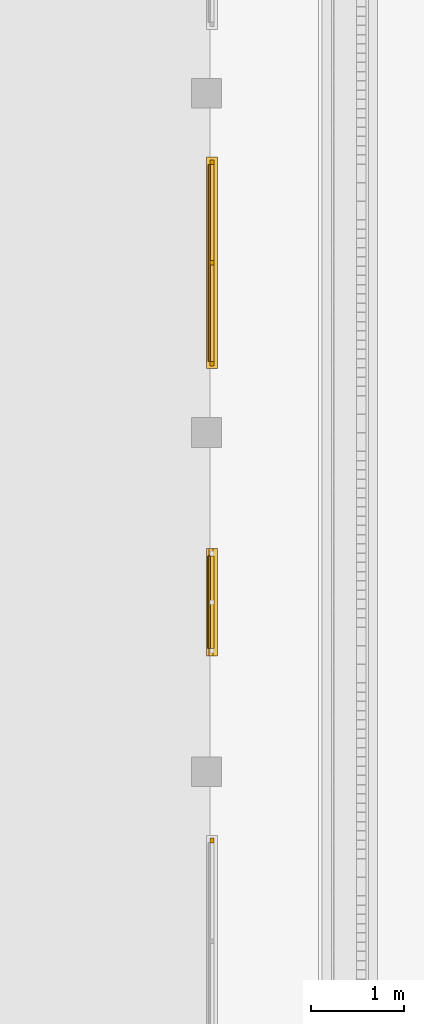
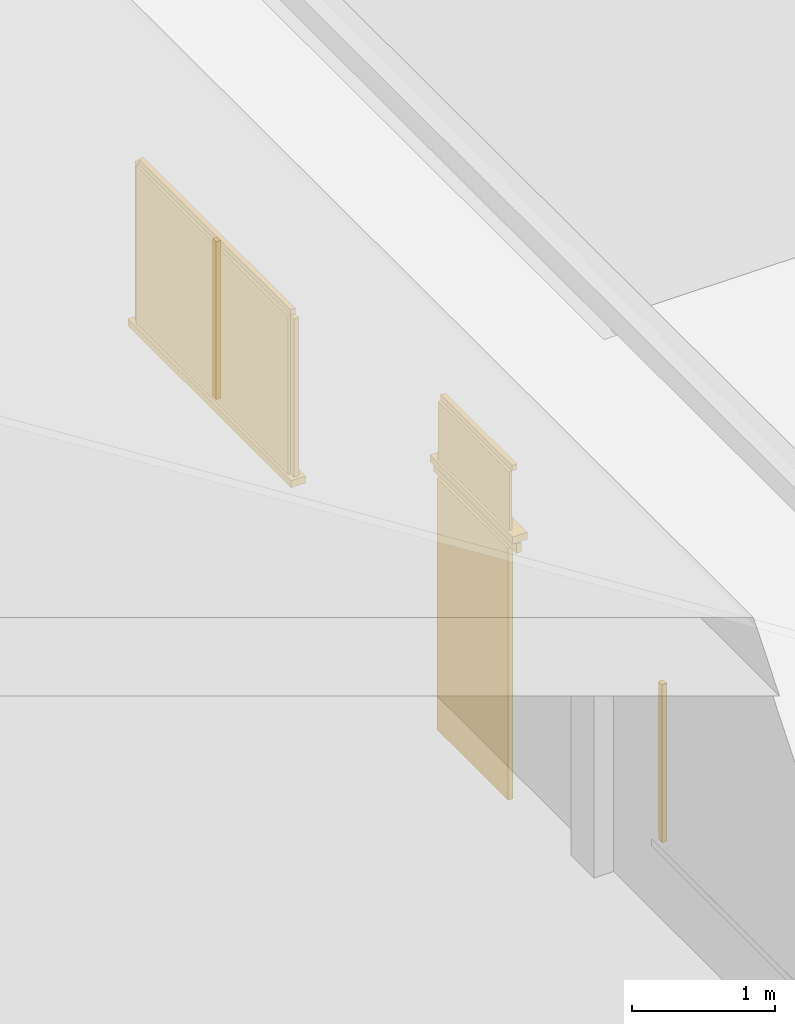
# One storey, part 52 of 151: 10 windows, 2 doors.
"""IFC2X3 building model written with IfcOpenShell, lengths in metres."""

from ifc_helpers import new_model, si_unit, origin, origin_with_axes, place, context, subcontext, project, spatial, faceted_brep, element, save


model = new_model("IFC2X3")

# Units and contexts
model_context = context("Model", 3, precision=1e-05, world=origin_with_axes())
body_context = subcontext(model_context, "Body", "Model", "MODEL_VIEW")
ifc_project = project(units=[si_unit("LENGTHUNIT", "METRE"), si_unit("AREAUNIT", "SQUARE_METRE"), si_unit("VOLUMEUNIT", "CUBIC_METRE"), si_unit("PLANEANGLEUNIT", "RADIAN")], contexts=[model_context])

# Site, building, storey
site_placement = place(None, origin_with_axes())
site = spatial("IfcSite", under=ifc_project, at=site_placement, Name="Predio Los Mangos - Morales, San Martín", CompositionType="ELEMENT")
building_placement = place(site_placement, origin())
building = spatial("IfcBuilding", under=site, at=building_placement, Name="Hogar de Refugio Temporal", CompositionType="ELEMENT")
storey_placement = place(building_placement, origin())
storey = spatial("IfcBuildingStorey", under=building, at=storey_placement, Name="NIVEL 1 (NPT +0.00)", CompositionType="ELEMENT", Elevation=0.0)

# Window
window_1_placement = place(storey_placement, origin())
element("IfcWindow", 1, at=window_1_placement, inside=storey, Name="E-05_v3_m", ObjectType="Ventana", context=body_context, shape_type="Brep", body=[
    faceted_brep([(59.64, 71.7809, 1.05), (59.64, 71.8309, 1.05), (59.68, 71.8309, 1.05), (59.68, 71.7809, 1.05), (59.64, 71.7809, 2.4), (59.68, 71.7809, 2.4), (59.68, 71.8309, 2.4), (59.64, 71.8309, 2.4)], [[[0, 1, 2, 3]], [[4, 5, 6, 7]], [[0, 3, 5, 4]], [[3, 2, 6, 5]], [[2, 1, 7, 6]], [[1, 0, 4, 7]]]),
])

# Doors
door_1_placement = place(storey_placement, origin())
element("IfcDoor", 2, at=door_1_placement, inside=storey, Name="E-05_p4", ObjectType="Puerta", context=body_context, shape_type="Brep", body=[
    faceted_brep([(59.61, 73.8812, 0.15), (59.61, 74.8812, 0.15), (59.65, 74.8812, 0.15), (59.65, 73.8812, 0.15), (59.61, 73.8812, 2.3), (59.65, 73.8812, 2.3), (59.65, 74.8812, 2.3), (59.61, 74.8812, 2.3)], [[[0, 1, 2, 3]], [[4, 5, 6, 7]], [[0, 3, 5, 4]], [[3, 2, 6, 5]], [[2, 1, 7, 6]], [[1, 0, 4, 7]]]),
])
door_2_placement = place(storey_placement, origin())
element("IfcDoor", 3, at=door_2_placement, inside=storey, Name="E-05_p4_marco", ObjectType="Puerta", context=body_context, shape_type="Brep", body=[
    faceted_brep([(59.63, 73.8012, 2.3), (59.63, 74.9613, 2.3), (59.67, 74.9613, 2.3), (59.67, 73.8012, 2.3), (59.63, 73.8012, 2.38), (59.67, 73.8012, 2.38), (59.67, 74.9613, 2.38), (59.63, 74.9613, 2.38)], [[[0, 1, 2, 3]], [[4, 5, 6, 7]], [[0, 3, 5, 4]], [[3, 2, 6, 5]], [[2, 1, 7, 6]], [[1, 0, 4, 7]]]),
])

# Windows
window_2_placement = place(storey_placement, origin())
element("IfcWindow", 4, at=window_2_placement, inside=storey, Name="E-05_vt4_vid", ObjectType="Ventana", context=body_context, shape_type="Brep", body=[
    faceted_brep([(59.62, 73.8812, 2.45), (59.62, 74.8812, 2.45), (59.64, 74.8812, 2.45), (59.64, 73.8812, 2.45), (59.62, 73.8812, 2.95), (59.64, 73.8812, 2.95), (59.64, 74.8812, 2.95), (59.62, 74.8812, 2.95)], [[[0, 1, 2, 3]], [[4, 5, 6, 7]], [[0, 3, 5, 4]], [[3, 2, 6, 5]], [[2, 1, 7, 6]], [[1, 0, 4, 7]]]),
])
window_3_placement = place(storey_placement, origin())
element("IfcWindow", 5, at=window_3_placement, inside=storey, Name="E-05_vt4_m", ObjectType="Ventana", context=body_context, shape_type="Brep", body=[
    faceted_brep([(59.64, 73.8812, 2.95), (59.64, 74.8812, 2.95), (59.68, 74.8812, 2.95), (59.68, 73.8812, 2.95), (59.64, 73.8812, 3.0), (59.68, 73.8812, 3.0), (59.68, 74.8812, 3.0), (59.64, 74.8812, 3.0)], [[[0, 1, 2, 3]], [[4, 5, 6, 7]], [[0, 3, 5, 4]], [[3, 2, 6, 5]], [[2, 1, 7, 6]], [[1, 0, 4, 7]]]),
])
window_4_placement = place(storey_placement, origin())
element("IfcWindow", 6, at=window_4_placement, inside=storey, Name="E-05_vt4_alf", ObjectType="Ventana", context=body_context, shape_type="Brep", body=[
    faceted_brep([(59.6, 73.8012, 2.39), (59.6, 74.9613, 2.39), (59.72, 74.9613, 2.39), (59.72, 73.8012, 2.39), (59.6, 73.8012, 2.45), (59.72, 73.8012, 2.45), (59.72, 74.9613, 2.45), (59.6, 74.9613, 2.45)], [[[0, 1, 2, 3]], [[4, 5, 6, 7]], [[0, 3, 5, 4]], [[3, 2, 6, 5]], [[2, 1, 7, 6]], [[1, 0, 4, 7]]]),
])
window_5_placement = place(storey_placement, origin())
element("IfcWindow", 7, at=window_5_placement, inside=storey, Name="E-05_v5_vid", ObjectType="Ventana", context=body_context, shape_type="Brep", body=[
    faceted_brep([(59.62, 76.9816, 1.05), (59.62, 79.1059, 1.05), (59.64, 79.1059, 1.05), (59.64, 76.9816, 1.05), (59.62, 76.9816, 2.4), (59.64, 76.9816, 2.4), (59.64, 79.1059, 2.4), (59.62, 79.1059, 2.4)], [[[0, 1, 2, 3]], [[4, 5, 6, 7]], [[0, 3, 5, 4]], [[3, 2, 6, 5]], [[2, 1, 7, 6]], [[1, 0, 4, 7]]]),
])
window_6_placement = place(storey_placement, origin())
element("IfcWindow", 8, at=window_6_placement, inside=storey, Name="E-05_v5_m", ObjectType="Ventana", context=body_context, shape_type="Brep", body=[
    faceted_brep([(59.64, 76.9316, 1.05), (59.64, 76.9816, 1.05), (59.68, 76.9816, 1.05), (59.68, 76.9316, 1.05), (59.64, 76.9316, 2.4), (59.68, 76.9316, 2.4), (59.68, 76.9816, 2.4), (59.64, 76.9816, 2.4)], [[[0, 1, 2, 3]], [[4, 5, 6, 7]], [[0, 3, 5, 4]], [[3, 2, 6, 5]], [[2, 1, 7, 6]], [[1, 0, 4, 7]]]),
])
window_7_placement = place(storey_placement, origin())
element("IfcWindow", 9, at=window_7_placement, inside=storey, Name="E-05_v5_m", ObjectType="Ventana", context=body_context, shape_type="Brep", body=[
    faceted_brep([(59.64, 79.1059, 1.05), (59.64, 79.1559, 1.05), (59.68, 79.1559, 1.05), (59.68, 79.1059, 1.05), (59.64, 79.1059, 2.4), (59.68, 79.1059, 2.4), (59.68, 79.1559, 2.4), (59.64, 79.1559, 2.4)], [[[0, 1, 2, 3]], [[4, 5, 6, 7]], [[0, 3, 5, 4]], [[3, 2, 6, 5]], [[2, 1, 7, 6]], [[1, 0, 4, 7]]]),
])
window_8_placement = place(storey_placement, origin())
element("IfcWindow", 10, at=window_8_placement, inside=storey, Name="E-05_v5_m", ObjectType="Ventana", context=body_context, shape_type="Brep", body=[
    faceted_brep([(59.64, 76.9816, 2.4), (59.64, 79.1059, 2.4), (59.68, 79.1059, 2.4), (59.68, 76.9816, 2.4), (59.64, 76.9816, 2.45), (59.68, 76.9816, 2.45), (59.68, 79.1059, 2.45), (59.64, 79.1059, 2.45)], [[[0, 1, 2, 3]], [[4, 5, 6, 7]], [[0, 3, 5, 4]], [[3, 2, 6, 5]], [[2, 1, 7, 6]], [[1, 0, 4, 7]]]),
])
window_9_placement = place(storey_placement, origin())
element("IfcWindow", 11, at=window_9_placement, inside=storey, Name="E-05_v5_m", ObjectType="Ventana", context=body_context, shape_type="Brep", body=[
    faceted_brep([(59.64, 78.0188, 1.05), (59.64, 78.0687, 1.05), (59.68, 78.0687, 1.05), (59.68, 78.0188, 1.05), (59.64, 78.0188, 2.4), (59.68, 78.0188, 2.4), (59.68, 78.0687, 2.4), (59.64, 78.0687, 2.4)], [[[0, 1, 2, 3]], [[4, 5, 6, 7]], [[0, 3, 5, 4]], [[3, 2, 6, 5]], [[2, 1, 7, 6]], [[1, 0, 4, 7]]]),
])
window_10_placement = place(storey_placement, origin())
element("IfcWindow", 12, at=window_10_placement, inside=storey, Name="E-05_v5_alf", ObjectType="Ventana", context=body_context, shape_type="Brep", body=[
    faceted_brep([(59.6, 76.9016, 0.99), (59.6, 79.1859, 0.99), (59.72, 79.1859, 0.99), (59.72, 76.9016, 0.99), (59.6, 76.9016, 1.05), (59.72, 76.9016, 1.05), (59.72, 79.1859, 1.05), (59.6, 79.1859, 1.05)], [[[0, 1, 2, 3]], [[4, 5, 6, 7]], [[0, 3, 5, 4]], [[3, 2, 6, 5]], [[2, 1, 7, 6]], [[1, 0, 4, 7]]]),
])

save(model, "model.ifc")
